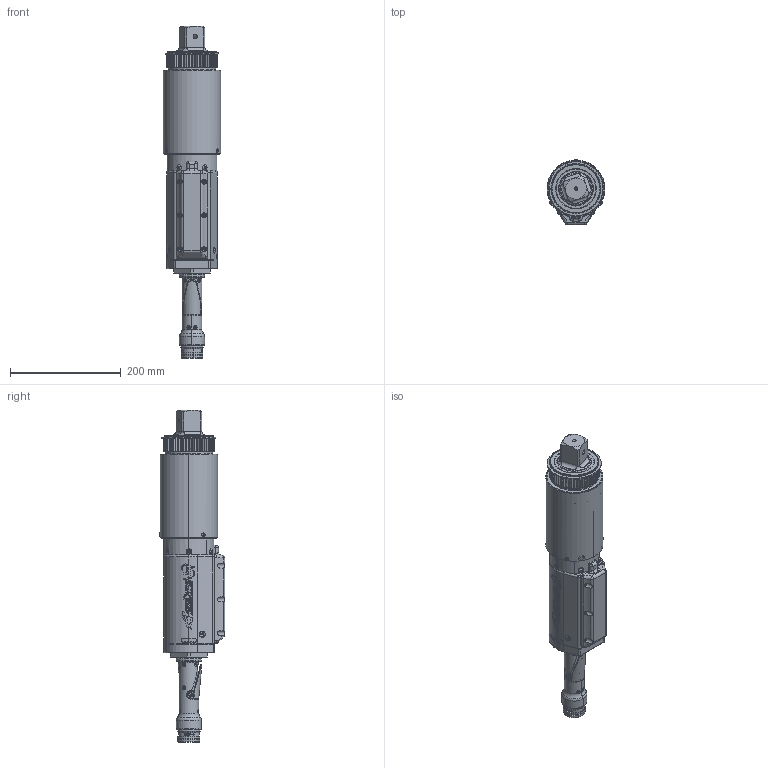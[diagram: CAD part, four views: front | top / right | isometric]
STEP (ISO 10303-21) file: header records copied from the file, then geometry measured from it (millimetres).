
FILE_DESCRIPTION (( 'STEP AP214' ), '1' );
FILE_NAME ('AES4A898100B.STEP', '2022-08-18T20:53:17', ( '' ), ( '' ), 'SwSTEP 2.0', 'SolidWorks 2022', '' );
FILE_SCHEMA (( 'AUTOMOTIVE_DESIGN' ));
Length unit declared in the file: inch
Products named in the file (1): AES4A898100B
Bounding box: 103.78 x 118.52 x 598.82 mm (x, y, z)
Surface area: 328752.5 mm2 (no closed solid volume)
Topology: 0 solids, 129 shells, 1526 faces, 5254 edges, 3669 vertices
Faces by surface type: cylinder 482, plane 371, bspline 255, cone 244, torus 162, sphere 12
Entity records: 152693 total; most frequent: CARTESIAN_POINT 91938, ORIENTED_EDGE 8148, DIRECTION 7672, EDGE_CURVE 5248, VERTEX_POINT 3669, AXIS2_PLACEMENT_3D 2966, VECTOR 1740, LINE 1740
